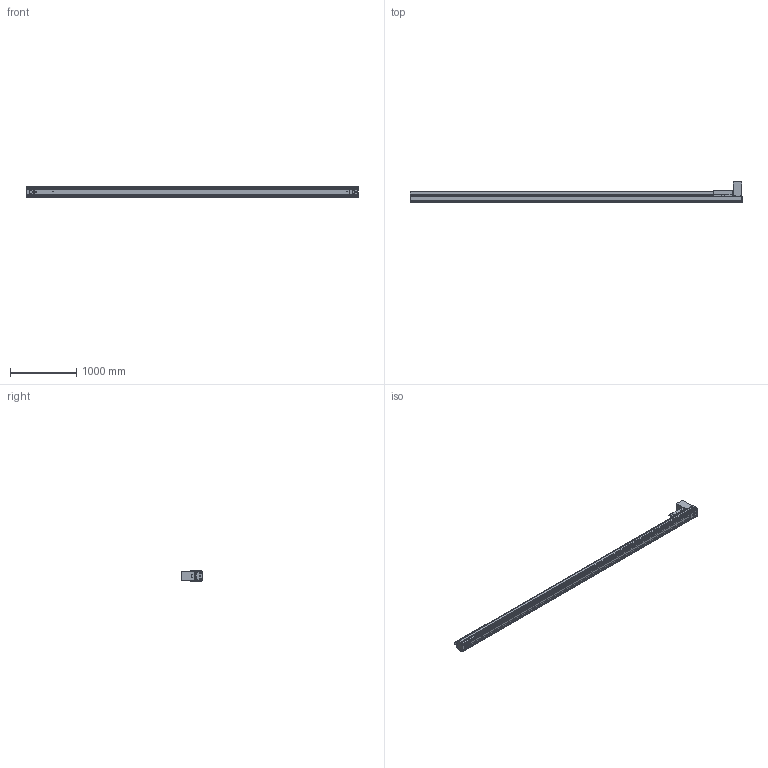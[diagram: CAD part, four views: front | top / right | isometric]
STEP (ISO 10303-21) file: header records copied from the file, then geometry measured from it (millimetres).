
FILE_DESCRIPTION((''),'2;1');
FILE_NAME('BE50G-BT-L19N-X45_IGS_PRT','2017-06-18T',(' '),(''),'PRO/ENGINEER BY PARAMETRIC TECHNOLOGY CORPORATION, 2015030','PRO/ENGINEER BY PARAMETRIC TECHNOLOGY CORPORATION, 2015030','');
FILE_SCHEMA(('CONFIG_CONTROL_DESIGN'));
Products named in the file (1): BE50G-BT-L19N-X45_IGS_PRT
Bounding box: 5020 x 309 x 160 mm (x, y, z)
Volume: 3190362.3 mm3; surface area: 9786367.5 mm2
Topology: 12 solids, 434 shells, 2436 faces, 7592 edges, 5207 vertices
Faces by surface type: cylinder 1487, plane 656, cone 250, sphere 23, torus 20
Entity records: 88982 total; most frequent: CARTESIAN_POINT 20404, DIRECTION 14394, ORIENTED_EDGE 13672, EDGE_CURVE 7518, AXIS2_PLACEMENT_3D 5532, VERTEX_POINT 5207, VECTOR 3330, LINE 3330
